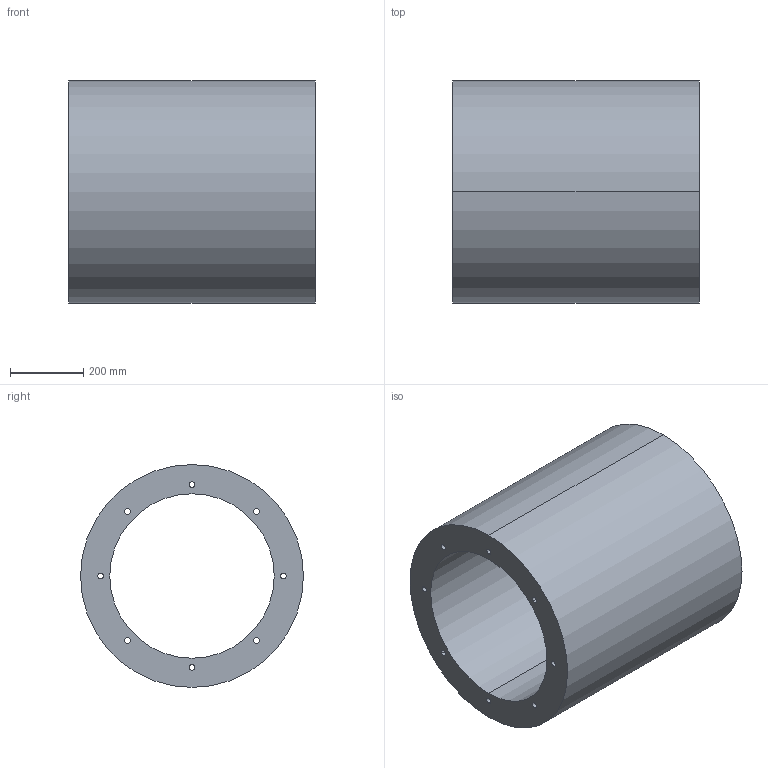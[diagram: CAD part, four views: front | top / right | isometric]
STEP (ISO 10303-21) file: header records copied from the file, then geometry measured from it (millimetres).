
FILE_DESCRIPTION(('STEP AP214'),'1');
FILE_NAME('accessory_5211810300.stp','2017-10-09T11:37:30',('TraceParts'),('TraceParts S.A.'),'Spatial InterOp 3D',' ',' ');
FILE_SCHEMA(('automotive_design'));
Length unit declared in the file: millimetre
Products named in the file (1): accessory_5211810300
Bounding box: 675 x 610 x 610 mm (x, y, z)
Volume: 88826647.3 mm3; surface area: 2782433.2 mm2
Topology: 1 solids, 1 shells, 22 faces, 60 edges, 40 vertices
Faces by surface type: cylinder 20, plane 2
Entity records: 952 total; most frequent: DIRECTION 146, CARTESIAN_POINT 123, ORIENTED_EDGE 120, AXIS2_PLACEMENT_3D 63, EDGE_CURVE 60, EDGE_LOOP 40, VERTEX_POINT 40, CIRCLE 40
